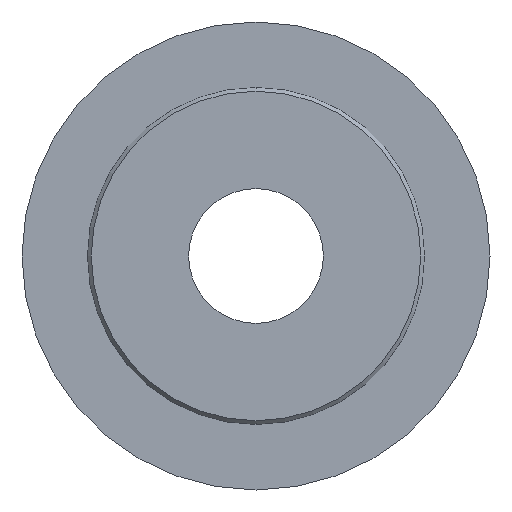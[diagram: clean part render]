
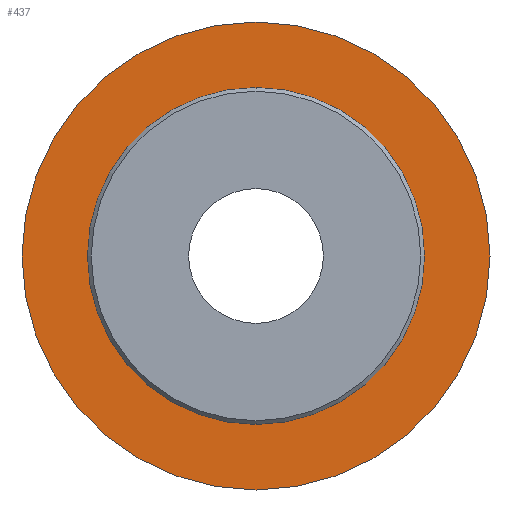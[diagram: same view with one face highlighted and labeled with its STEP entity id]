
A CAD part, front view. The second image highlights one B-rep face of the part: STEP entity #437.
In plain terms, the highlighted planar face has unit normal (0, -1, 0).
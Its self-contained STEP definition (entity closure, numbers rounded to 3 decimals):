
#7 = DIRECTION ( 'NONE',  ( 0., -1., 0. ) ) ;
#12 = EDGE_CURVE ( 'NONE', #238, #323, #244, .T. ) ;
#15 = DIRECTION ( 'NONE',  ( 0., 1., 0. ) ) ;
#24 = CARTESIAN_POINT ( 'NONE',  ( 0., 3., 0. ) ) ;
#45 = EDGE_LOOP ( 'NONE', ( #173, #78 ) ) ;
#78 = ORIENTED_EDGE ( 'NONE', *, *, #12, .T. ) ;
#84 = FACE_BOUND ( 'NONE', #107, .T. ) ;
#96 = CARTESIAN_POINT ( 'NONE',  ( 0., 3., 62.5 ) ) ;
#107 = EDGE_LOOP ( 'NONE', ( #237, #273 ) ) ;
#111 = CARTESIAN_POINT ( 'NONE',  ( 0., 3., -62.5 ) ) ;
#118 = EDGE_CURVE ( 'NONE', #197, #354, #196, .T. ) ;
#127 = AXIS2_PLACEMENT_3D ( 'NONE', #165, #199, #310 ) ;
#132 = CARTESIAN_POINT ( 'NONE',  ( 0., 3., 0. ) ) ;
#147 = DIRECTION ( 'NONE',  ( 0., -1., 0. ) ) ;
#151 = CIRCLE ( 'NONE', #307, 62.5 ) ;
#153 = CARTESIAN_POINT ( 'NONE',  ( 0., 3., -45. ) ) ;
#155 = DIRECTION ( 'NONE',  ( 0., 0., -1. ) ) ;
#165 = CARTESIAN_POINT ( 'NONE',  ( 0., 3., 0. ) ) ;
#173 = ORIENTED_EDGE ( 'NONE', *, *, #424, .T. ) ;
#196 = CIRCLE ( 'NONE', #241, 45. ) ;
#197 = VERTEX_POINT ( 'NONE', #346 ) ;
#199 = DIRECTION ( 'NONE',  ( 0., -1., 0. ) ) ;
#237 = ORIENTED_EDGE ( 'NONE', *, *, #347, .F. ) ;
#238 = VERTEX_POINT ( 'NONE', #96 ) ;
#239 = AXIS2_PLACEMENT_3D ( 'NONE', #24, #147, #366 ) ;
#241 = AXIS2_PLACEMENT_3D ( 'NONE', #132, #253, #404 ) ;
#244 = CIRCLE ( 'NONE', #127, 62.5 ) ;
#253 = DIRECTION ( 'NONE',  ( 0., -1., 0. ) ) ;
#273 = ORIENTED_EDGE ( 'NONE', *, *, #118, .F. ) ;
#282 = AXIS2_PLACEMENT_3D ( 'NONE', #385, #15, #407 ) ;
#306 = CIRCLE ( 'NONE', #239, 45. ) ;
#307 = AXIS2_PLACEMENT_3D ( 'NONE', #336, #7, #155 ) ;
#310 = DIRECTION ( 'NONE',  ( 0., 0., -1. ) ) ;
#323 = VERTEX_POINT ( 'NONE', #111 ) ;
#334 = PLANE ( 'NONE',  #282 ) ;
#336 = CARTESIAN_POINT ( 'NONE',  ( 0., 3., 0. ) ) ;
#346 = CARTESIAN_POINT ( 'NONE',  ( 0., 3., 45. ) ) ;
#347 = EDGE_CURVE ( 'NONE', #354, #197, #306, .T. ) ;
#354 = VERTEX_POINT ( 'NONE', #153 ) ;
#366 = DIRECTION ( 'NONE',  ( 0., 0., -1. ) ) ;
#370 = FACE_OUTER_BOUND ( 'NONE', #45, .T. ) ;
#385 = CARTESIAN_POINT ( 'NONE',  ( -45., 3., 0. ) ) ;
#404 = DIRECTION ( 'NONE',  ( 0., 0., -1. ) ) ;
#407 = DIRECTION ( 'NONE',  ( 0., 0., 1. ) ) ;
#424 = EDGE_CURVE ( 'NONE', #323, #238, #151, .T. ) ;
#437 = ADVANCED_FACE ( 'NONE', ( #84, #370 ), #334, .F. ) ;
